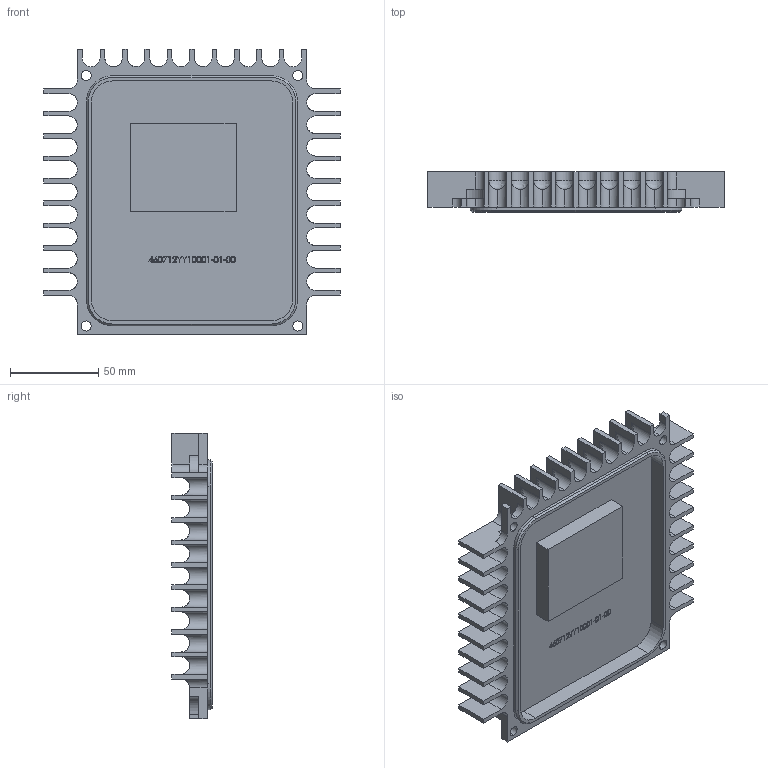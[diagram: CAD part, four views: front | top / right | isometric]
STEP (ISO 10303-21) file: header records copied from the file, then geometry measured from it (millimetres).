
FILE_DESCRIPTION (( 'STEP AP203' ), '1' );
FILE_NAME ('Lid.STEP', '2021-12-01T14:00:42', ( '' ), ( '' ), 'SwSTEP 2.0', 'SolidWorks 2020', '' );
FILE_SCHEMA (( 'CONFIG_CONTROL_DESIGN' ));
Length unit declared in the file: millimetre
Products named in the file (1): Lid
Bounding box: 168 x 22.7 x 162 mm (x, y, z)
Volume: 201868.3 mm3; surface area: 95817.7 mm2
Topology: 1 solids, 1 shells, 397 faces, 1112 edges, 723 vertices
Faces by surface type: plane 212, cylinder 95, bspline 86, cone 4
Entity records: 21330 total; most frequent: CARTESIAN_POINT 11842, ORIENTED_EDGE 2192, DIRECTION 1575, EDGE_CURVE 1096, VERTEX_POINT 723, VECTOR 687, LINE 687, AXIS2_PLACEMENT_3D 444
